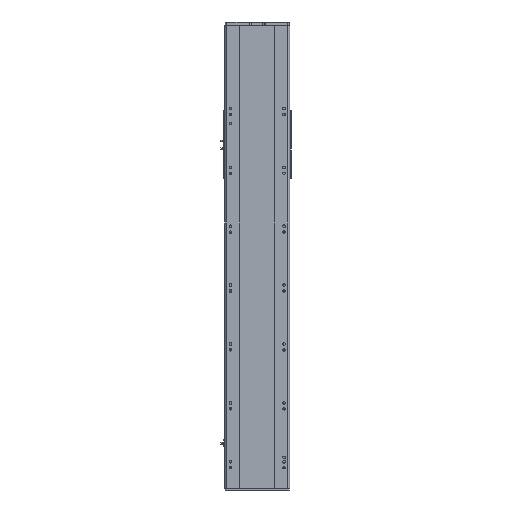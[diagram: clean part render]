
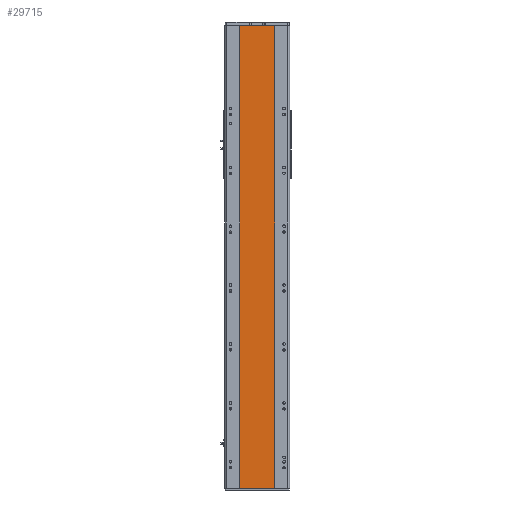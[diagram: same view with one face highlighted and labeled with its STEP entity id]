
A CAD part, front view. The second image highlights one B-rep face of the part: STEP entity #29715.
In plain terms, the highlighted planar face has unit normal (0, -1, 0).
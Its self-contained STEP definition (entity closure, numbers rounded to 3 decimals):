
#604 = EDGE_CURVE ( 'NONE', #21736, #25286, #30660, .T. ) ;
#2691 = CARTESIAN_POINT ( 'NONE',  ( -59., 1., -785.5 ) ) ;
#7296 = DIRECTION ( 'NONE',  ( 1., 0., 0. ) ) ;
#8093 = CARTESIAN_POINT ( 'NONE',  ( 59., 1., 785.5 ) ) ;
#8370 = PLANE ( 'NONE',  #23488 ) ;
#8468 = LINE ( 'NONE', #11756, #11276 ) ;
#11276 = VECTOR ( 'NONE', #32159, 1000. ) ;
#11756 = CARTESIAN_POINT ( 'NONE',  ( -59., 1., -785.5 ) ) ;
#12434 = CARTESIAN_POINT ( 'NONE',  ( -59., 1., 785.5 ) ) ;
#12691 = VECTOR ( 'NONE', #28728, 1000. ) ;
#13106 = ORIENTED_EDGE ( 'NONE', *, *, #31264, .T. ) ;
#14835 = EDGE_CURVE ( 'NONE', #36335, #21736, #26369, .T. ) ;
#15038 = DIRECTION ( 'NONE',  ( -1., 0., 0. ) ) ;
#16066 = CARTESIAN_POINT ( 'NONE',  ( -59., 1., 785.5 ) ) ;
#18442 = VECTOR ( 'NONE', #7296, 1000. ) ;
#19440 = ORIENTED_EDGE ( 'NONE', *, *, #22340, .T. ) ;
#20103 = CARTESIAN_POINT ( 'NONE',  ( -59., 1., 785.5 ) ) ;
#20290 = VERTEX_POINT ( 'NONE', #2691 ) ;
#21736 = VERTEX_POINT ( 'NONE', #8093 ) ;
#22340 = EDGE_CURVE ( 'NONE', #20290, #25286, #8468, .T. ) ;
#22435 = LINE ( 'NONE', #37280, #12691 ) ;
#23488 = AXIS2_PLACEMENT_3D ( 'NONE', #20103, #29325, #15038 ) ;
#24508 = CARTESIAN_POINT ( 'NONE',  ( 59., 1., 785.5 ) ) ;
#24780 = DIRECTION ( 'NONE',  ( 0., 0., -1. ) ) ;
#25286 = VERTEX_POINT ( 'NONE', #25439 ) ;
#25343 = ORIENTED_EDGE ( 'NONE', *, *, #14835, .F. ) ;
#25439 = CARTESIAN_POINT ( 'NONE',  ( 59., 1., -785.5 ) ) ;
#26369 = LINE ( 'NONE', #16066, #18442 ) ;
#27437 = VECTOR ( 'NONE', #24780, 1000. ) ;
#28728 = DIRECTION ( 'NONE',  ( 0., 0., -1. ) ) ;
#29325 = DIRECTION ( 'NONE',  ( 0., 1., 0. ) ) ;
#29677 = ORIENTED_EDGE ( 'NONE', *, *, #604, .F. ) ;
#29715 = ADVANCED_FACE ( 'NONE', ( #31823 ), #8370, .F. ) ;
#29765 = EDGE_LOOP ( 'NONE', ( #19440, #29677, #25343, #13106 ) ) ;
#30660 = LINE ( 'NONE', #24508, #27437 ) ;
#31264 = EDGE_CURVE ( 'NONE', #36335, #20290, #22435, .T. ) ;
#31823 = FACE_OUTER_BOUND ( 'NONE', #29765, .T. ) ;
#32159 = DIRECTION ( 'NONE',  ( 1., 0., 0. ) ) ;
#36335 = VERTEX_POINT ( 'NONE', #12434 ) ;
#37280 = CARTESIAN_POINT ( 'NONE',  ( -59., 1., 785.5 ) ) ;
